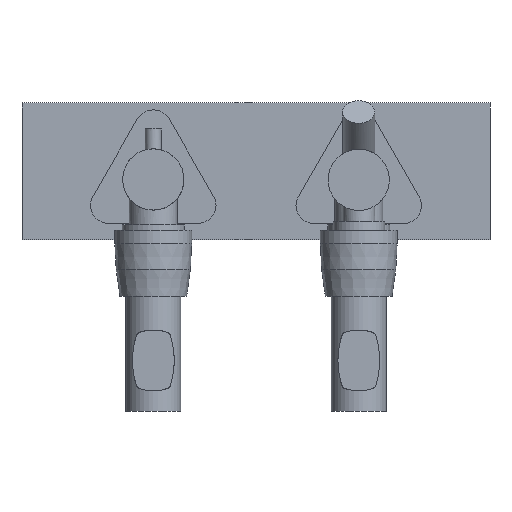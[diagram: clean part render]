
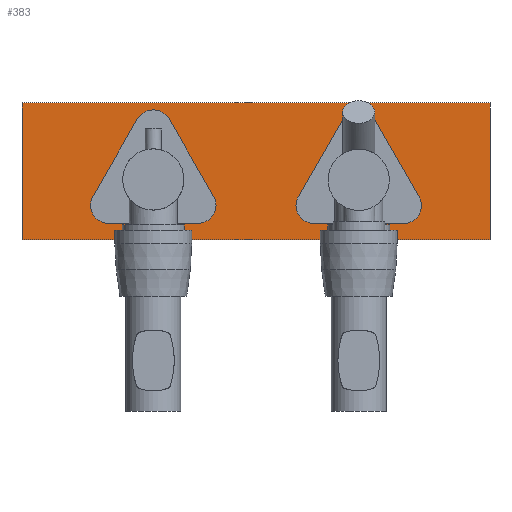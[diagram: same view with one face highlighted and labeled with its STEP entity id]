
A CAD part, front view. The second image highlights one B-rep face of the part: STEP entity #383.
In plain terms, the highlighted planar face has unit normal (0, -1, 0).
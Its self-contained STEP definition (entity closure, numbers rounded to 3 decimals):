
#383=ADVANCED_FACE('',(#1227),#1228,.T.);
#1227=FACE_OUTER_BOUND('',#2663,.T.);
#1228=PLANE('',#2664);
#2663=EDGE_LOOP('',(#4440,#4441,#4442,#4443));
#2664=AXIS2_PLACEMENT_3D('',#4444,#4445,#4446);
#4440=ORIENTED_EDGE('',*,*,#9862,.T.);
#4441=ORIENTED_EDGE('',*,*,#9863,.T.);
#4442=ORIENTED_EDGE('',*,*,#9860,.F.);
#4443=ORIENTED_EDGE('',*,*,#9864,.T.);
#4444=CARTESIAN_POINT('',(102.5,0.0,30.0));
#4445=DIRECTION('',(0.0,-1.0,0.0));
#4446=DIRECTION('',(0.0,0.0,-1.0));
#9860=EDGE_CURVE('',#11857,#11859,#11860,.T.);
#9862=EDGE_CURVE('',#11862,#11863,#11864,.T.);
#9863=EDGE_CURVE('',#11863,#11859,#11865,.T.);
#9864=EDGE_CURVE('',#11857,#11862,#11866,.T.);
#11857=VERTEX_POINT('',#15483);
#11859=VERTEX_POINT('',#15486);
#11860=LINE('',#15487,#15488);
#11862=VERTEX_POINT('',#15491);
#11863=VERTEX_POINT('',#15492);
#11864=LINE('',#15493,#15494);
#11865=LINE('',#15495,#15496);
#11866=LINE('',#15497,#15498);
#15483=CARTESIAN_POINT('',(102.5,0.0,-30.0));
#15486=CARTESIAN_POINT('',(-102.5,0.0,-30.0));
#15487=CARTESIAN_POINT('',(102.5,0.0,-30.0));
#15488=VECTOR('',#20381,1.0);
#15491=CARTESIAN_POINT('',(102.5,0.0,30.0));
#15492=CARTESIAN_POINT('',(-102.5,0.0,30.0));
#15493=CARTESIAN_POINT('',(102.5,0.0,30.0));
#15494=VECTOR('',#20383,1.0);
#15495=CARTESIAN_POINT('',(-102.5,0.0,30.0));
#15496=VECTOR('',#20384,1.0);
#15497=CARTESIAN_POINT('',(102.5,0.0,-30.0));
#15498=VECTOR('',#20385,1.0);
#20381=DIRECTION('',(-1.0,0.0,0.0));
#20383=DIRECTION('',(-1.0,0.0,0.0));
#20384=DIRECTION('',(0.0,0.0,-1.0));
#20385=DIRECTION('',(0.0,0.0,1.0));
